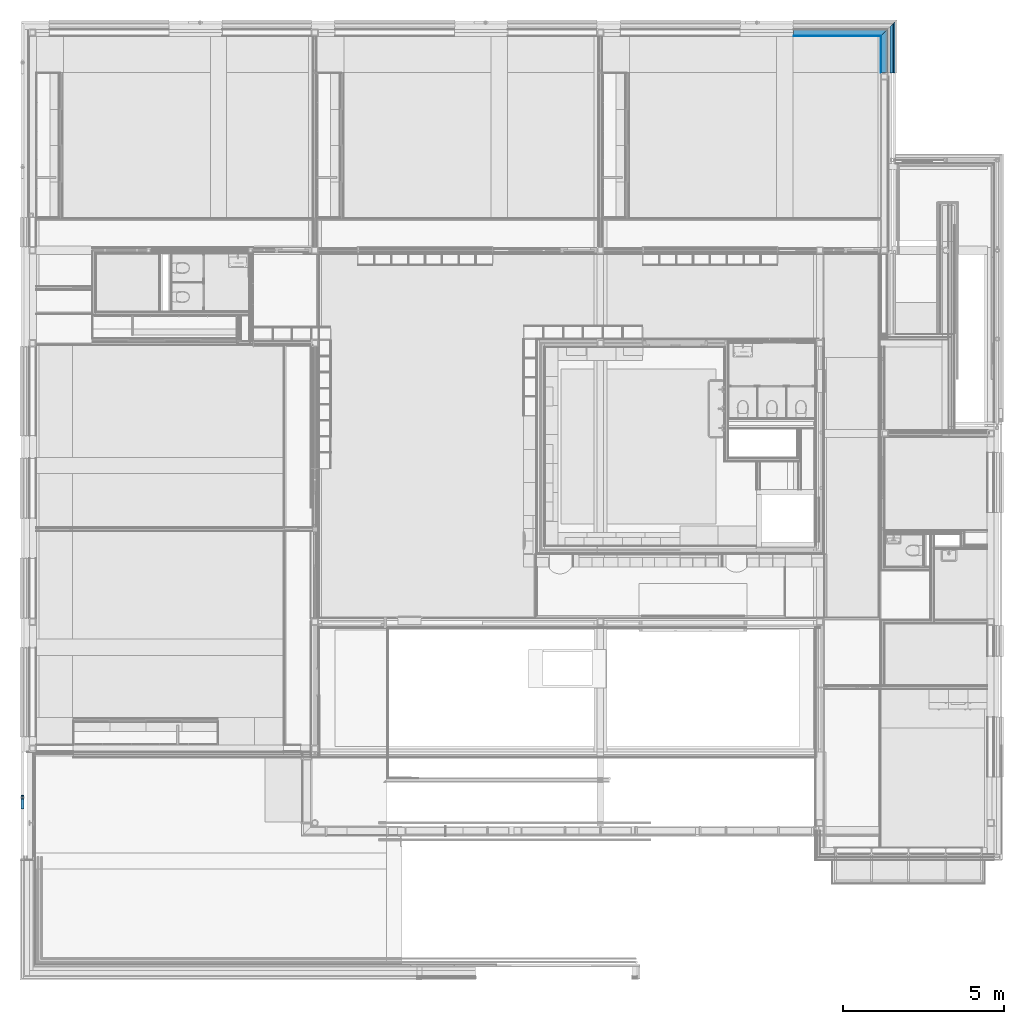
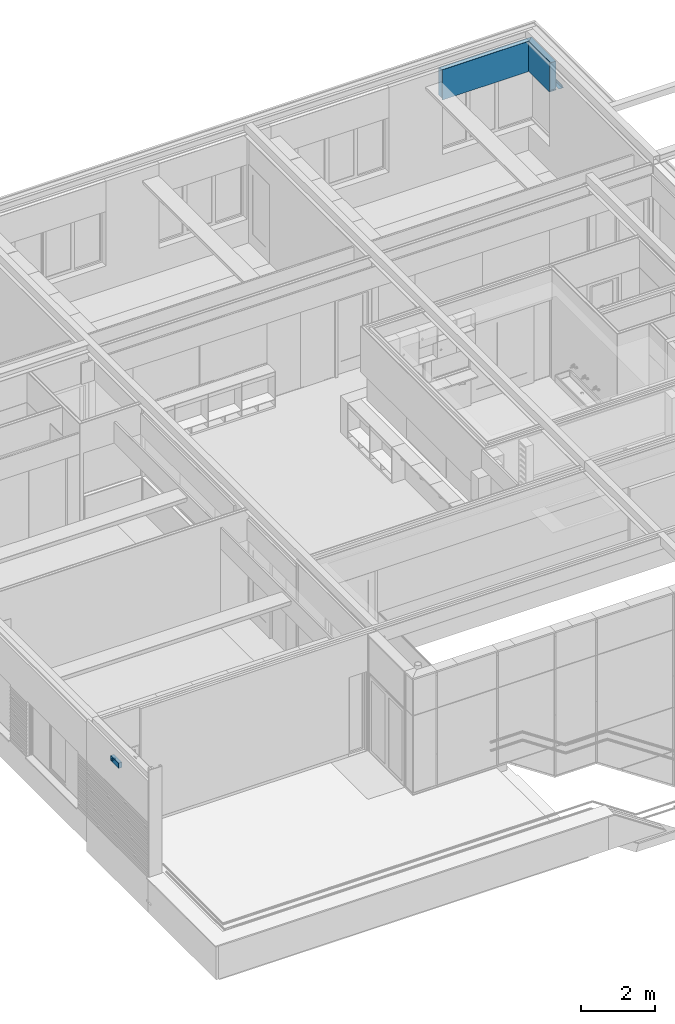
# One storey, part 96 of 137: 9 building element parts, 4 elements without a shape of their own.
"""IFC2X3 building model written with IfcOpenShell, lengths in millimetres."""

from ifc_helpers import new_model, entity, si_unit, converted_unit, derived_unit, money_unit, direction, frame, origin_with_axes, place, context, subcontext, project, spatial, faceted_brep, material, type_object, element, aggregate, save


model = new_model("IFC2X3")

# Units and contexts
model_context = context("Model", 3, precision=0.01, world=origin_with_axes(), true_north=direction((0.0, 1.0)))
body_context = subcontext(model_context, "Body", "Model", "MODEL_VIEW")
ifc_project = project(units=[si_unit("LENGTHUNIT", "METRE", prefix="MILLI"), si_unit("AREAUNIT", "SQUARE_METRE"), si_unit("VOLUMEUNIT", "CUBIC_METRE"), converted_unit("PLANEANGLEUNIT", "DEGREE", entity("IfcPlaneAngleMeasure", 0.0174532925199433), si_unit("PLANEANGLEUNIT", "RADIAN"), dimensions=[0, 0, 0, 0, 0, 0, 0]), money_unit("EUR"), converted_unit("TIMEUNIT", "Year", entity("IfcTimeMeasure", 31556926.0), si_unit("TIMEUNIT", "SECOND"), dimensions=[0, 0, 1, 0, 0, 0, 0]), si_unit("MASSUNIT", "GRAM", prefix="KILO"), si_unit("THERMODYNAMICTEMPERATUREUNIT", "DEGREE_CELSIUS"), si_unit("LUMINOUSINTENSITYUNIT", "LUMEN"), si_unit("ENERGYUNIT", "JOULE", prefix="MEGA"), derived_unit("THERMALCONDUCTANCEUNIT", [(si_unit("POWERUNIT", "WATT"), 1), (si_unit("LENGTHUNIT", "METRE"), -1), (si_unit("THERMODYNAMICTEMPERATUREUNIT", "KELVIN"), -1)]), derived_unit("SPECIFICHEATCAPACITYUNIT", [(si_unit("ENERGYUNIT", "JOULE"), 1), (si_unit("MASSUNIT", "GRAM", prefix="KILO"), -1), (si_unit("THERMODYNAMICTEMPERATUREUNIT", "KELVIN"), -1)]), derived_unit("MASSDENSITYUNIT", [(si_unit("MASSUNIT", "GRAM", prefix="KILO"), 1), (si_unit("VOLUMEUNIT", "CUBIC_METRE"), -1)])], contexts=[model_context])

# Site, building, storey
site_placement = place(None, origin_with_axes())
site = spatial("IfcSite", under=ifc_project, at=site_placement, Name="Site", CompositionType="ELEMENT")
building_placement = place(site_placement, origin_with_axes())
building = spatial("IfcBuilding", under=site, at=building_placement, Name="Naam gebouw", CompositionType="ELEMENT")
storey_placement = place(building_placement, frame((0.0, 0.0, 3960.0), z_axis=(0.0, 0.0, 1.0), x_axis=(1.0, 0.0, 0.0)))
storey = spatial("IfcBuildingStorey", under=building, at=storey_placement, Name="1e verdieping", CompositionType="ELEMENT", Elevation=3960.0)

# Beam, building element parts
beam_type_1 = type_object("IfcBeamType", Name="41 Latei/geveldrager 158 x 112", PredefinedType="BEAM")
beam_1_placement = place(storey_placement, frame((26780.0, 29355.0, 2610.0), z_axis=(0.0, 0.0, 1.0), x_axis=(-1.0, 0.0, 0.0)))
beam_1 = element("IfcBeam", 1, at=beam_1_placement, inside=storey, type_object=beam_type_1, Name="_Regenwaterafvoer-x", ObjectType="BEAM")
ifc_material_1 = material(Name="Metaal - Staal C")
building_element_part_1_placement = place(beam_1_placement, origin_with_axes())
building_element_part_1 = element("IfcBuildingElementPart", 2, at=building_element_part_1_placement, material=ifc_material_1, Name="Metaal - Staal C", context=body_context, shape_type="Brep", body=[
    faceted_brep([(-50.00000000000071, 1533.999999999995, 6.55651533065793e-07), (-50.00000000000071, 1533.999999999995, -3.000000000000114), (-50.00000000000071, -50.00000000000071, -3.000000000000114), (-50.00000000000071, -50.00000000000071, 6.55651533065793e-07), (-5.9603877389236e-08, 1533.999999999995, 6.55651533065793e-07), (-5.9603877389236e-08, 1533.999999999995, 99.3417707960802), (16.54654975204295, 1533.999999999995, 108.8949262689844), (18.04655007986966, 1533.999999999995, 106.2968498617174), (3.000000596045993, 1533.999999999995, 96.99999988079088), (3.000000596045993, 1533.999999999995, 6.55651533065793e-07), (3.000000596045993, 1533.999999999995, -3.000000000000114), (3.000000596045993, 3.000000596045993, -3.000000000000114), (3.000000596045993, 3.000000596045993, 6.55651533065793e-07), (3.000000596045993, 3.000000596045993, 96.99999988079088), (18.04655007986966, 18.04655007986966, 106.2968498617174), (16.54654975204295, 16.54654975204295, 108.8949262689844), (-5.9603877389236e-08, -5.9603877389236e-08, 99.3417707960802), (-5.9603877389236e-08, -5.9603877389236e-08, 6.55651533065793e-07)], [[[0, 1, 2, 3]], [[0, 4, 5, 6, 7, 8, 9, 10, 1]], [[1, 10, 11, 2]], [[3, 2, 11, 12, 13, 14, 15, 16, 17]], [[4, 0, 3, 17]], [[5, 4, 17, 16]], [[6, 5, 16, 15]], [[7, 6, 15, 14]], [[8, 7, 14, 13]], [[9, 8, 13, 12]], [[10, 9, 12, 11]]]),
])
building_element_part_2_placement = place(beam_1_placement, origin_with_axes())
building_element_part_2 = element("IfcBuildingElementPart", 3, at=building_element_part_2_placement, material=ifc_material_1, Name="Metaal - Staal C", context=body_context, shape_type="Brep", body=[
    faceted_brep([(3.000000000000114, 1533.999999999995, -3.000000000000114), (108.0000000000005, 1533.999999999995, -3.000000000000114), (108.0000000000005, 108.0000000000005, -3.000000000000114), (3.000000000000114, 3.000000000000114, -3.000000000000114), (3.000000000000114, 1533.999999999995, 0.0), (108.0000000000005, 1533.999999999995, 0.0), (108.0000000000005, 108.0000000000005, 0.0), (3.000000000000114, 3.000000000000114, 0.0)], [[[0, 1, 2, 3]], [[0, 4, 5, 1]], [[1, 5, 6, 2]], [[3, 2, 6, 7]], [[4, 0, 3, 7]], [[5, 4, 7, 6]]]),
])
aggregate(beam_1, [building_element_part_1, building_element_part_2])

beam_type_2 = type_object("IfcBeamType", Name="41 Nestkast zwaluw 430 x 175", PredefinedType="BEAM")
beam_2_placement = place(storey_placement, frame((-159.9999999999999, 5015.999979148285, 3410.000000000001), z_axis=(0.0, 0.0, 1.0), x_axis=(0.0, 1.0, 0.0)))
beam_2 = element("IfcBeam", 4, at=beam_2_placement, inside=storey, type_object=beam_type_2, Name="_Regenwaterafvoer-x", ObjectType="BEAM")
ifc_material_2 = material(Name="Beton gewapend C")
building_element_part_3_placement = place(beam_2_placement, origin_with_axes())
building_element_part_3 = element("IfcBuildingElementPart", 5, at=building_element_part_3_placement, material=ifc_material_2, Name="Beton gewapend C", context=body_context, shape_type="Brep", body=[
    faceted_brep([(389.9999999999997, 100.0000000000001, 80.00000000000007), (386.9551813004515, 100.0000000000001, 95.30733729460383), (386.9551813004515, 0.0, 95.30733729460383), (389.9999999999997, 0.0, 80.00000000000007), (386.9551813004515, 100.0000000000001, 64.69266270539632), (378.2842712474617, 100.0000000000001, 51.71572875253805), (365.3073372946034, 100.0000000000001, 43.04481869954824), (349.9999999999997, 100.0000000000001, 40.00000000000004), (334.6926627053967, 100.0000000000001, 43.04481869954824), (321.7157287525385, 100.0000000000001, 51.71572875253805), (313.0448186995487, 100.0000000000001, 64.69266270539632), (309.9999999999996, 100.0000000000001, 80.00000000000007), (313.0448186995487, 100.0000000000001, 95.30733729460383), (321.7157287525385, 100.0000000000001, 108.2842712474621), (334.6926627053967, 100.0000000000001, 116.9551813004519), (349.9999999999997, 100.0000000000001, 120.0000000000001), (365.3073372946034, 100.0000000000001, 116.9551813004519), (378.2842712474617, 100.0000000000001, 108.2842712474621), (330.0000000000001, 100.0000000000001, 84.99999999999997), (330.0000000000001, 100.0000000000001, 75.00000000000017), (331.4644660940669, 100.0000000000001, 71.46446609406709), (334.9999999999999, 100.0000000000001, 70.00000000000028), (365.0000000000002, 100.0000000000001, 70.00000000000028), (368.5355339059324, 100.0000000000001, 71.46446609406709), (370.0000000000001, 100.0000000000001, 75.00000000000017), (370.0000000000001, 100.0000000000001, 84.99999999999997), (368.5355339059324, 100.0000000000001, 88.53553390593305), (365.0000000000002, 100.0000000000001, 89.99999999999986), (334.9999999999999, 100.0000000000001, 89.99999999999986), (331.4644660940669, 100.0000000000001, 88.53553390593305), (378.2842712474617, 0.0, 108.2842712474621), (365.3073372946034, 0.0, 116.9551813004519), (349.9999999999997, 0.0, 120.0000000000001), (334.6926627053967, 0.0, 116.9551813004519), (321.7157287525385, 0.0, 108.2842712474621), (313.0448186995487, 0.0, 95.30733729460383), (309.9999999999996, 0.0, 80.00000000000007), (313.0448186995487, 0.0, 64.69266270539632), (321.7157287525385, 0.0, 51.71572875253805), (334.6926627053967, 0.0, 43.04481869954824), (349.9999999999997, 0.0, 40.00000000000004), (365.3073372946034, 0.0, 43.04481869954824), (378.2842712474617, 0.0, 51.71572875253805), (386.9551813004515, 0.0, 64.69266270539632), (330.0000000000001, 0.0, 84.99999999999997), (331.4644660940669, 0.0, 88.53553390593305), (334.9999999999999, 0.0, 89.99999999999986), (365.0000000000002, 0.0, 89.99999999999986), (368.5355339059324, 0.0, 88.53553390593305), (370.0000000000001, 0.0, 84.99999999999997), (370.0000000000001, 0.0, 75.00000000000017), (368.5355339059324, 0.0, 71.46446609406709), (365.0000000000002, 0.0, 70.00000000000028), (334.9999999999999, 0.0, 70.00000000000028), (331.4644660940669, 0.0, 71.46446609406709), (330.0000000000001, 0.0, 75.00000000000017)], [[[0, 1, 2, 3]], [[0, 4, 5, 6, 7, 8, 9, 10, 11, 12, 13, 14, 15, 16, 17, 1], [18, 19, 20, 21, 22, 23, 24, 25, 26, 27, 28, 29]], [[1, 17, 30, 2]], [[3, 2, 30, 31, 32, 33, 34, 35, 36, 37, 38, 39, 40, 41, 42, 43], [44, 45, 46, 47, 48, 49, 50, 51, 52, 53, 54, 55]], [[4, 0, 3, 43]], [[5, 4, 43, 42]], [[6, 5, 42, 41]], [[7, 6, 41, 40]], [[8, 7, 40, 39]], [[9, 8, 39, 38]], [[10, 9, 38, 37]], [[11, 10, 37, 36]], [[12, 11, 36, 35]], [[13, 12, 35, 34]], [[14, 13, 34, 33]], [[15, 14, 33, 32]], [[16, 15, 32, 31]], [[17, 16, 31, 30]], [[19, 18, 44, 55]], [[20, 19, 55, 54]], [[21, 20, 54, 53]], [[22, 21, 53, 52]], [[23, 22, 52, 51]], [[24, 23, 51, 50]], [[25, 24, 50, 49]], [[26, 25, 49, 48]], [[27, 26, 48, 47]], [[28, 27, 47, 46]], [[29, 28, 46, 45]], [[18, 29, 45, 44]]]),
])
ifc_material_3 = material(Name="Beton C")
building_element_part_4_placement = place(beam_2_placement, origin_with_axes())
building_element_part_4 = element("IfcBuildingElementPart", 6, at=building_element_part_4_placement, material=ifc_material_3, Name="Beton C", context=body_context, shape_type="Brep", body=[
    faceted_brep([(429.9999999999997, 100.0000000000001, 174.9999999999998), (0.0, 100.0000000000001, 174.9999999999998), (0.0, 0.0, 174.9999999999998), (429.9999999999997, 0.0, 174.9999999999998), (429.9999999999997, 100.0000000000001, 0.0), (0.0, 100.0000000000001, 0.0), (309.9999999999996, 100.0000000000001, 80.00000000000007), (313.0448186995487, 100.0000000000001, 64.69266270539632), (321.7157287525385, 100.0000000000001, 51.71572875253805), (334.6926627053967, 100.0000000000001, 43.04481869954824), (349.9999999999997, 100.0000000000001, 40.00000000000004), (365.3073372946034, 100.0000000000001, 43.04481869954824), (378.2842712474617, 100.0000000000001, 51.71572875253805), (386.9551813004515, 100.0000000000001, 64.69266270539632), (389.9999999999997, 100.0000000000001, 80.00000000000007), (386.9551813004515, 100.0000000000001, 95.30733729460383), (378.2842712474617, 100.0000000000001, 108.2842712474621), (365.3073372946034, 100.0000000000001, 116.9551813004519), (349.9999999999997, 100.0000000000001, 120.0000000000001), (334.6926627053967, 100.0000000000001, 116.9551813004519), (321.7157287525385, 100.0000000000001, 108.2842712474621), (313.0448186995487, 100.0000000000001, 95.30733729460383), (0.0, 0.0, 0.0), (429.9999999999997, 0.0, 0.0), (309.9999999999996, 0.0, 80.00000000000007), (313.0448186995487, 0.0, 95.30733729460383), (321.7157287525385, 0.0, 108.2842712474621), (334.6926627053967, 0.0, 116.9551813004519), (349.9999999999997, 0.0, 120.0000000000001), (365.3073372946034, 0.0, 116.9551813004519), (378.2842712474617, 0.0, 108.2842712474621), (386.9551813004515, 0.0, 95.30733729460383), (389.9999999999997, 0.0, 80.00000000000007), (386.9551813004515, 0.0, 64.69266270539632), (378.2842712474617, 0.0, 51.71572875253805), (365.3073372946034, 0.0, 43.04481869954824), (349.9999999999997, 0.0, 40.00000000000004), (334.6926627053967, 0.0, 43.04481869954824), (321.7157287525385, 0.0, 51.71572875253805), (313.0448186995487, 0.0, 64.69266270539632)], [[[0, 1, 2, 3]], [[0, 4, 5, 1], [6, 7, 8, 9, 10, 11, 12, 13, 14, 15, 16, 17, 18, 19, 20, 21]], [[1, 5, 22, 2]], [[3, 2, 22, 23], [24, 25, 26, 27, 28, 29, 30, 31, 32, 33, 34, 35, 36, 37, 38, 39]], [[4, 0, 3, 23]], [[5, 4, 23, 22]], [[7, 6, 24, 39]], [[8, 7, 39, 38]], [[9, 8, 38, 37]], [[10, 9, 37, 36]], [[11, 10, 36, 35]], [[12, 11, 35, 34]], [[13, 12, 34, 33]], [[14, 13, 33, 32]], [[15, 14, 32, 31]], [[16, 15, 31, 30]], [[17, 16, 30, 29]], [[18, 17, 29, 28]], [[19, 18, 28, 27]], [[20, 19, 27, 26]], [[21, 20, 26, 25]], [[6, 21, 25, 24]]]),
])
aggregate(beam_2, [building_element_part_3, building_element_part_4])

# Beam, building element part
beam_type_3 = type_object("IfcBeamType", Name="31 HSB boven kozijnen 214 x 1000", PredefinedType="BEAM")
beam_3_placement = place(storey_placement, frame((23684.99942456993, 28961.0, 2600.000000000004), z_axis=(0.0, 0.0, 1.0), x_axis=(0.0, -1.0, 0.0)))
beam_3 = element("IfcBeam", 7, at=beam_3_placement, inside=storey, type_object=beam_type_3, Name="28_Balk-x", ObjectType="BEAM")
ifc_material_4 = material(Name="Gipsplaat")
building_element_part_5_placement = place(beam_3_placement, origin_with_axes())
building_element_part_5 = element("IfcBuildingElementPart", 8, at=building_element_part_5_placement, material=ifc_material_4, Name="Gipsplaat", context=body_context, shape_type="Brep", body=[
    faceted_brep([(-11.99999661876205, 2713.000572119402, 0.0), (9.341707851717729e-06, 2701.000566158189, 0.0), (9.341711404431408e-06, 0.0, 0.0), (-11.99999661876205, 0.0, 0.0), (-11.99999661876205, 2713.000572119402, 999.9999999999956), (9.341707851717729e-06, 2701.000566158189, 999.9999999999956), (9.341707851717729e-06, 0.0, 999.9999999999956), (-11.99999661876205, 0.0, 999.9999999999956)], [[[0, 1, 2, 3]], [[0, 4, 5, 1]], [[1, 5, 6, 2]], [[3, 2, 6, 7]], [[4, 0, 3, 7]], [[5, 4, 7, 6]]]),
])

# Beam, building element parts
beam_4_placement = place(storey_placement, frame((26386.00000006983, 28961.0, 2600.000000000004), z_axis=(0.0, 0.0, 1.0), x_axis=(-1.0, 0.0, 0.0)))
beam_4 = element("IfcBeam", 9, at=beam_4_placement, inside=storey, type_object=beam_type_3, Name="28_Balk-x", ObjectType="BEAM")
building_element_part_6_placement = place(beam_4_placement, origin_with_axes())
building_element_part_6 = element("IfcBuildingElementPart", 10, at=building_element_part_6_placement, material=ifc_material_4, Name="Gipsplaat", context=body_context, shape_type="Brep", body=[
    faceted_brep([(-11.99999661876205, 1130.000000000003, 0.0), (9.341707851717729e-06, 1130.000000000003, 0.0), (9.341711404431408e-06, 9.341714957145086e-06, 0.0), (-11.9999966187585, -11.99999661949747, 0.0), (-11.99999661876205, 1130.000000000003, 999.9999999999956), (9.341707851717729e-06, 1130.000000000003, 999.9999999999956), (9.341707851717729e-06, 9.341714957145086e-06, 999.9999999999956), (-11.9999966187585, -11.99999661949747, 999.9999999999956)], [[[0, 1, 2, 3]], [[0, 4, 5, 1]], [[1, 5, 6, 2]], [[3, 2, 6, 7]], [[4, 0, 3, 7]], [[5, 4, 7, 6]]]),
])
building_element_part_7_placement = place(beam_4_placement, origin_with_axes())
building_element_part_7 = element("IfcBuildingElementPart", 11, at=building_element_part_7_placement, material=ifc_material_4, Name="Gipsplaat", context=body_context, shape_type="Brep", body=[
    faceted_brep([(-214.0000025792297, 1130.000000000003, 12.00000596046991), (-214.0000025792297, 1130.000000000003, 0.0), (-214.0000025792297, -214.0000025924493, 0.0), (-214.0000025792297, -214.0000025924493, 12.00000596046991), (-11.99999661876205, 1130.000000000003, 12.00000596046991), (-11.99999661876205, 1130.000000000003, 0.0), (-11.9999966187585, -11.99999661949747, 0.0), (-11.9999966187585, -11.99999661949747, 12.00000596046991)], [[[0, 1, 2, 3]], [[0, 4, 5, 1]], [[1, 5, 6, 2]], [[3, 2, 6, 7]], [[4, 0, 3, 7]], [[5, 4, 7, 6]]]),
])
ifc_material_5 = material(Name="ALG - ISOLATIE")
building_element_part_8_placement = place(beam_4_placement, origin_with_axes())
building_element_part_8 = element("IfcBuildingElementPart", 12, at=building_element_part_8_placement, material=ifc_material_5, Name="ALG - ISOLATIE", context=body_context, shape_type="Brep", body=[
    faceted_brep([(-12.00000000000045, 1130.000000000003, 49.99999999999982), (-12.00000000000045, 1130.000000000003, 961.9999999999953), (-12.00000000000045, -12.00000000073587, 961.9999999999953), (-12.00000000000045, -12.00000000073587, 49.99999999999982), (-196.0000000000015, 1130.000000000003, 49.99999999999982), (-196.0000000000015, 1130.000000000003, 961.9999999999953), (-196.0000000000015, -196.0000000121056, 961.9999999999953), (-196.0000000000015, -196.0000000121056, 49.99999999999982)], [[[0, 1, 2, 3]], [[0, 4, 5, 1]], [[1, 5, 6, 2]], [[3, 2, 6, 7]], [[4, 0, 3, 7]], [[5, 4, 7, 6]]]),
])
aggregate(beam_4, [building_element_part_6, building_element_part_7, building_element_part_8])

# Building element part
building_element_part_9_placement = place(beam_3_placement, origin_with_axes())
building_element_part_9 = element("IfcBuildingElementPart", 13, at=building_element_part_9_placement, material=ifc_material_5, Name="ALG - ISOLATIE", context=body_context, shape_type="Brep", body=[
    faceted_brep([(-12.00000000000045, 2713.00057550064, 49.99999999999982), (-12.00000000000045, 2713.00057550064, 961.9999999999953), (-12.00000000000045, 0.0, 961.9999999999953), (-12.00000000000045, 0.0, 49.99999999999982), (-196.0000000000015, 2897.00057551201, 49.99999999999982), (-196.0000000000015, 2897.00057551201, 961.9999999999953), (-196.0000000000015, 0.0, 961.9999999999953), (-195.999999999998, 0.0, 49.99999999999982)], [[[0, 1, 2, 3]], [[0, 4, 5, 1]], [[1, 5, 6, 2]], [[3, 2, 6, 7]], [[4, 0, 3, 7]], [[5, 4, 7, 6]]]),
])

aggregate(beam_3, [building_element_part_5, building_element_part_9])

save(model, "model.ifc")
